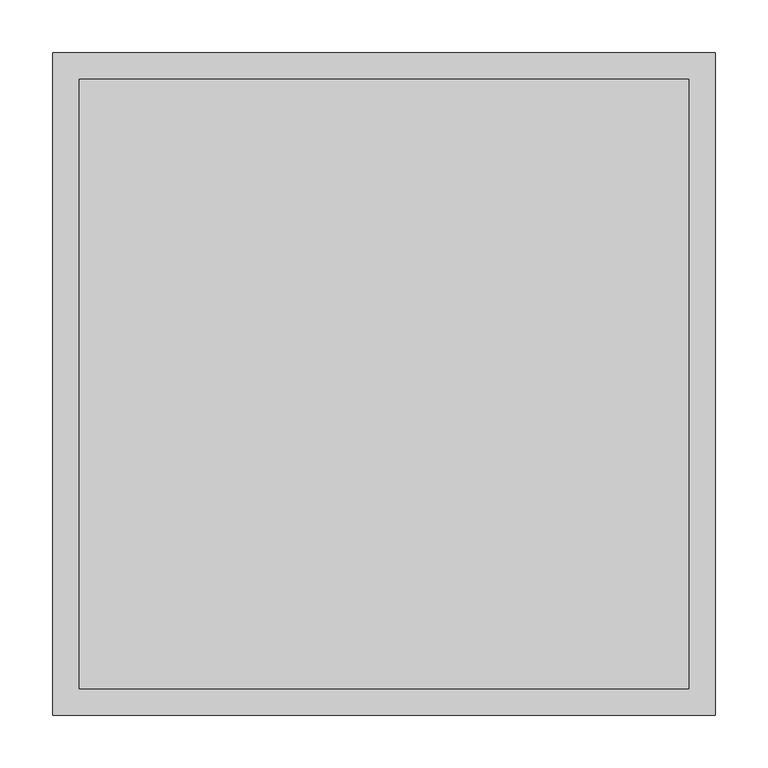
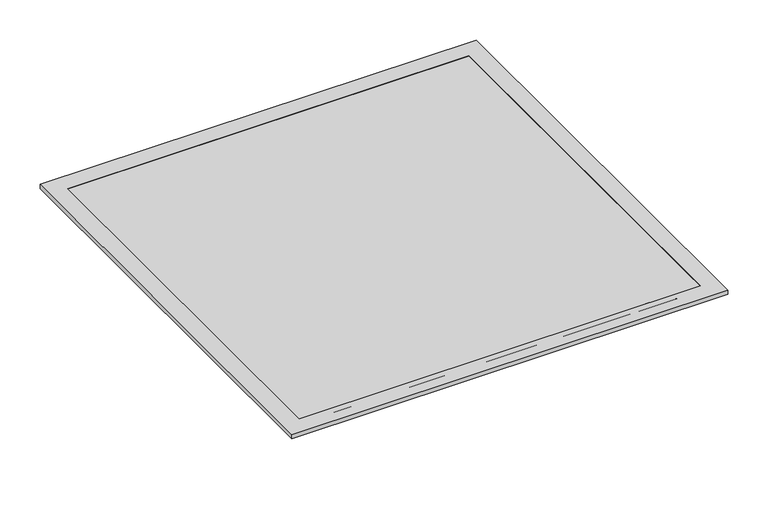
"""IFC4 building model written with IfcOpenShell, lengths in millimetres: air terminal geometry, Titus-Round_Neck_Supply_Diffuser-PCS_Surface_Mount : PCS AA-06_24x24."""

from ifc_helpers import new_model, si_unit, point, frame, origin, origin_2d, place, context, project, spatial, polyline, circle_curve, trimmed, segment, composite_curve, outline, extrude, faceted_brep, source, transform, mapped, element, save


def air_terminal_620ae9cd(model_context):
    return source(origin(), model_context, "Body", "SolidModel", [
        faceted_brep([(-314.325, 314.325, 0.0), (-314.325, 314.325, 6.35), (314.325, 314.325, 6.35), (314.325, 314.325, 0.0), (-288.925, 288.925, 6.35), (-288.925, 288.925, 5.55625), (288.925, 288.925, 5.55625), (288.925, 288.925, 6.35), (314.325, -314.325, 6.35), (314.325, -314.325, 0.0), (288.925, -288.925, 5.55625), (288.925, -288.925, 6.35), (-314.325, -314.325, 6.35), (-314.325, -314.325, 0.0), (-288.925, -288.925, 5.55625), (-288.925, -288.925, 6.35), (-313.53125, 313.53125, 0.0), (-313.53125, -313.53125, 0.0), (313.53125, -313.53125, 0.0), (313.53125, 313.53125, 0.0), (-313.53125, 313.53125, 5.55625), (313.53125, 313.53125, 5.55625), (313.53125, -313.53125, 5.55625), (-313.53125, -313.53125, 5.55625)], [[[0, 1, 2, 3]], [[4, 5, 6, 7]], [[3, 2, 8, 9]], [[7, 6, 10, 11]], [[9, 8, 12, 13]], [[11, 10, 14, 15]], [[1, 12, 8, 2], [7, 11, 15, 4]], [[13, 12, 1, 0]], [[3, 9, 13, 0], [16, 17, 18, 19]], [[15, 14, 5, 4]], [[20, 16, 19, 21]], [[21, 19, 18, 22]], [[22, 18, 17, 23]], [[23, 17, 16, 20]], [[21, 22, 23, 20], [5, 14, 10, 6]]]),
        faceted_brep([(228.6, 228.6, -50.8), (228.6, -228.6, -50.8), (-228.6, -228.6, -50.8), (-228.6, 228.6, -50.8), (-267.5193548, 267.5193548, -19.05), (267.5193548, 267.5193548, -19.05), (-267.5193548, -267.5193548, -19.05), (267.5193548, -267.5193548, -19.05), (288.925, 288.925, -19.05), (288.925, -288.925, -19.05), (-288.925, -288.925, -19.05), (-288.925, 288.925, -19.05), (-288.925, 288.925, -1.5875), (-288.925, 288.925, 4.7625), (288.925, 288.925, 4.7625), (288.925, 288.925, -1.5875), (-288.925, -288.925, -1.5875), (-288.925, -288.925, 4.7625), (288.925, -288.925, -1.5875), (288.925, -288.925, 4.7625), (301.625, 301.625, 5.55625), (-301.625, 301.625, 5.55625), (-301.625, -301.625, 5.55625), (301.625, -301.625, 5.55625), (301.625, 301.625, 4.7625), (301.625, -301.625, 4.7625), (-301.625, -301.625, 4.7625), (-301.625, 301.625, 4.7625)], [[[0, 1, 2, 3]], [[0, 3, 4, 5]], [[3, 2, 6, 4]], [[2, 1, 7, 6]], [[1, 0, 5, 7]], [[8, 9, 10, 11], [5, 4, 6, 7]], [[8, 11, 12, 13, 14, 15]], [[11, 10, 16, 17, 13, 12]], [[10, 9, 18, 19, 17, 16]], [[9, 8, 15, 14, 19, 18]], [[20, 21, 22, 23]], [[24, 25, 26, 27], [14, 13, 17, 19]], [[21, 20, 24, 27]], [[22, 21, 27, 26]], [[23, 22, 26, 25]], [[20, 23, 25, 24]]]),
        extrude(outline(polyline([(288.925, 288.925), (288.925, -288.925), (-288.925, -288.925), (-288.925, 288.925), (288.925, 288.925)])), frame((0.0, 0.0, 5.55625), z_axis=(0.0, 0.0, 1.0), x_axis=(1.0, 0.0, 0.0)), (0.0, 0.0, 1.0), 0.79375),
        extrude(outline(composite_curve([segment(trimmed(circle_curve(origin_2d(), 74.6125), [point((-74.6125, 0.0))], [point((74.6125, 0.0))], False, "CARTESIAN"), True, "CONTINUOUS"), segment(trimmed(circle_curve(origin_2d(), 74.6125), [point((74.6125, 0.0))], [point((-74.6125, 0.0))], False, "CARTESIAN"), True, "CONTINUOUS")], self_intersect=False), holes=[composite_curve([segment(trimmed(circle_curve(origin_2d(), 73.025), [point((-73.025, 0.0))], [point((73.025, 0.0))], True, "CARTESIAN"), True, "CONTINUOUS"), segment(trimmed(circle_curve(origin_2d(), 73.025), [point((73.025, 0.0))], [point((-73.025, 0.0))], True, "CARTESIAN"), True, "CONTINUOUS")], self_intersect=False)]), frame((0.0, 0.0, -76.2), z_axis=(0.0, 0.0, 1.0), x_axis=(1.0, 0.0, 0.0)), (0.0, 0.0, 1.0), 25.4),
    ])


if __name__ == "__main__":
    model = new_model("IFC4")
    model_context = context("Model", 3, world=origin())
    ifc_project = project(units=[si_unit("LENGTHUNIT", "METRE", prefix="MILLI")], contexts=[model_context])
    site = spatial("IfcSite", under=ifc_project)
    building = spatial("IfcBuilding", under=site)
    placement = place(None, origin())
    air_terminal_shape = air_terminal_620ae9cd(model_context)
    element("IfcAirTerminal", 1, ObjectType="Titus-Round_Neck_Supply_Diffuser-PCS_Surface_Mount : PCS AA-06_24x24", at=placement, inside=building, context=model_context, shape_type="MappedRepresentation", body=[
        mapped(air_terminal_shape, transform((0.0, 0.0, 0.0), x_axis=(1.0, 0.0, 0.0), y_axis=(0.0, 1.0, 0.0), z_axis=(0.0, 0.0, 1.0))),
    ])
    save(model, "model.ifc")
